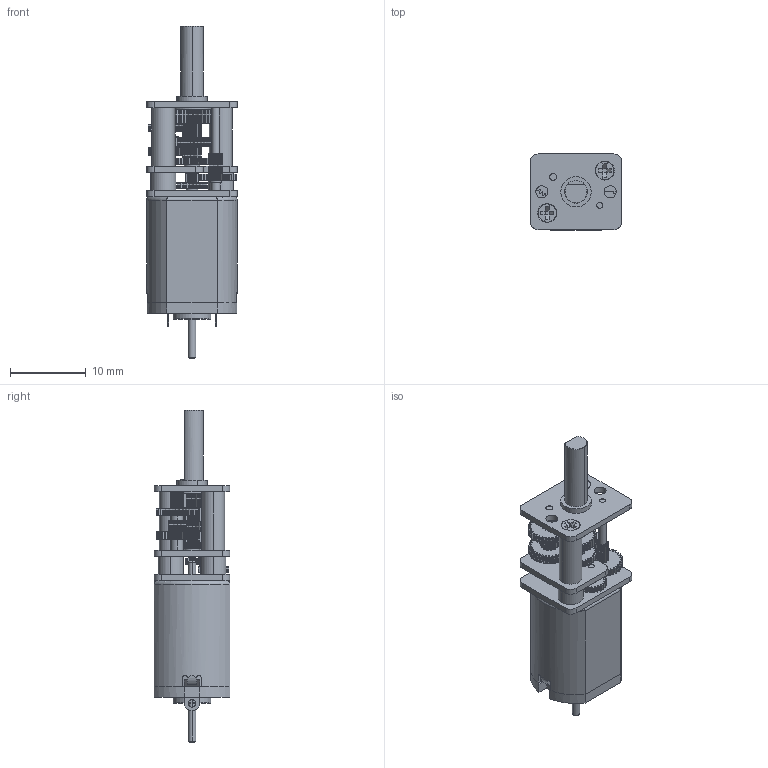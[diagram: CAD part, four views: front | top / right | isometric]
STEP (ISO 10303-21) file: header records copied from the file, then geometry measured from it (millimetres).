
FILE_DESCRIPTION (( 'STEP AP214' ), '1' );
FILE_NAME ('mmgm-1000-1-carbon-brushes-backshaft.STEP', '2024-04-24T01:45:33', ( '' ), ( '' ), 'SwSTEP 2.0', 'SolidWorks 2023', '' );
FILE_SCHEMA (( 'AUTOMOTIVE_DESIGN' ));
Length unit declared in the file: inch
Products named in the file (1): mmgm-1000-1-carbon-brushes-backshaft
Bounding box: 12 x 10 x 43.8 mm (x, y, z)
Volume: 2256.9 mm3; surface area: 2522.4 mm2
Topology: 1 solids, 3 shells, 3013 faces, 8996 edges, 6047 vertices
Faces by surface type: cylinder 1710, plane 934, bspline 354, torus 9, cone 6
Entity records: 162507 total; most frequent: CARTESIAN_POINT 53069, ORIENTED_EDGE 17992, DIRECTION 9985, EDGE_CURVE 8996, VERTEX_POINT 6047, B_SPLINE_CURVE_WITH_KNOTS 5660, AXIS2_PLACEMENT_3D 4003, EDGE_LOOP 3117
